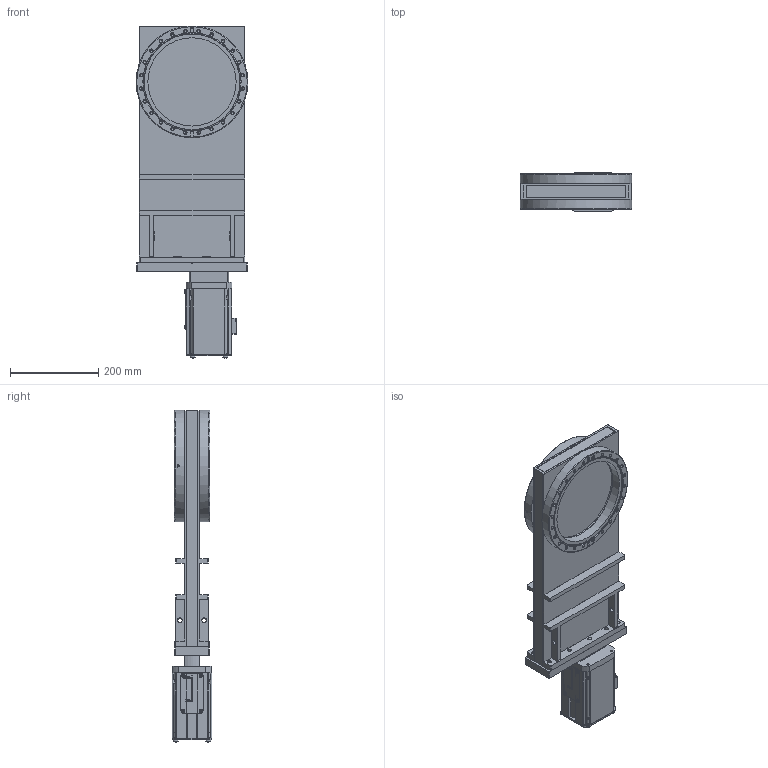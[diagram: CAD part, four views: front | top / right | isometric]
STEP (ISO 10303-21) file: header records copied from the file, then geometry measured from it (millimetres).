
FILE_DESCRIPTION(/* description */ (''),/* implementation_level */ '2;1');
FILE_NAME(/* name */ '1016019029_203.stp',/* time_stamp */ '2021-11-16T07:57:14+01:00',/* author */ (''),/* organization */ (''),/* preprocessor_version */ 'ST-DEVELOPER v16.7',/* originating_system */ 'SIEMENS PLM Software NX 1915',/* authorisation */ '');
FILE_SCHEMA (('AP203_CONFIGURATION_CONTROLLED_3D_DESIGN_OF_MECHANICAL_PARTS_AND_ASSEMBLIES_MIM_LF { 1 0 10303 403 2 1 2}'));
Length unit declared in the file: millimetre
Products named in the file (44): 833986_30074ID; 833986_30075ID; 834001_30400ID; 834001_30321ID; 834006_30435ID; 834014_30077ID; 834014_30328ID; 834046_30322ID; 834046_30252ID; 834046_30484ID; 834046_30357ID; 834044_30348ID; 834044_30411ID; 834044_30401ID; 834044_30433ID; n-6197-034.1; n-7100-007.2; 395614; 94220-01.1; 94224-01.2; n-6099-511.1; 23657-01.1_30319ID; 23657-01.1_30399ID; n-6024-526; N-7100-014_2.1; 94828-01.1; N-7100-012_3.1; N-6024-538.1; 68057-01.1; N-6024-571.1; 85949-01.1; 67114-01.1; 842824; 65313-01.1; N-7557-016_3.1; 74628-01.3; 778871; 834047_MODEL; 826670_MODEL; 94827-r1.1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
Assembly tree (60 placements, depth 4):
  899632
    94237-r1.2
      67114-01.1  x4
      85949-01.1
      N-6024-571.1  x4
      395615
        94224-01.2
        94220-01.1
        395614
        n-7100-007.2  x2
        n-6197-034.1
    778871  x6
    74628-01.3
    78103-r1.1
      68057-01.1
      N-6024-538.1  x4
    94827-r1.1
      N-7100-012_3.1
      94828-01.1
      N-7100-014_2.1
      n-6024-526  x2
    N-7557-016_3.1
    826670_MODEL
      834047_MODEL
        834044_30433ID
        834044_30401ID
        834044_30411ID
        834044_30348ID
        834046_30357ID
        834046_30484ID
        834046_30252ID
        834046_30322ID
        834014_30328ID
        834014_30077ID
        834006_30435ID
        834001_30321ID
        834001_30400ID
        833986_30075ID
        833986_30074ID
      23657-01.1_30399ID
      23657-01.1_30319ID
      n-6099-511.1  x2
    65313-01.1
    842824
Bounding box: 253.2 x 90 x 752.45 mm (x, y, z)
Volume: 4110827.2 mm3; surface area: 1072242.7 mm2
Topology: 52 solids, 52 shells, 1760 faces, 4823 edges, 3289 vertices
Faces by surface type: plane 1134, cylinder 348, cone 172, torus 57, extrusion 29, sphere 10, bspline 10
Full cylindrical faces by diameter (mm): 0.6 x1, 0.725 x1, 1.5 x6, 2 x2, 2.125 x1, 2.5 x4, 2.65 x1, 3 x3, 3.3 x6, 4 x4, 4.05 x4, 4.2 x4, 4.3 x4, 4.35 x2, 4.4 x4, 4.5 x2, 4.625 x2, 5 x8, 5.4 x2, 5.8 x1, 5.9 x1, 6 x15, 6.6 x4, 6.8 x48, 6.85 x4, 7.05 x3, 7.982 x4, 8 x6, 8.36 x6, 8.4 x6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
Entity records: 54841 total; most frequent: CARTESIAN_POINT 14300, ORIENTED_EDGE 7108, DIRECTION 6924, EDGE_CURVE 3554, VERTEX_POINT 2688, VECTOR 2406, LINE 2377, AXIS2_PLACEMENT_3D 2259
